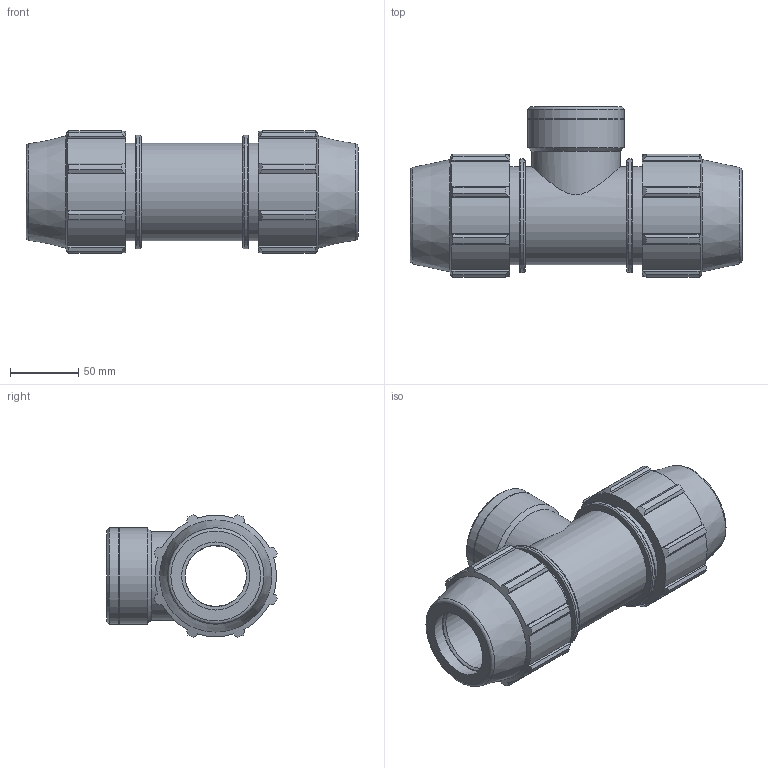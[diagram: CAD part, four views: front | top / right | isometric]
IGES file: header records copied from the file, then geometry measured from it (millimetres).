
Global section: file name: 071400050020_181400050020_0714060500200A.ipt; native system: Autodesk Inventor 2015; preprocessor: unknown; author: KIM; date: 20170606.172158; units: millimetre
Bounding box: 244 x 125.16 x 90.33 mm (x, y, z)
Volume: 833691.7 mm3; surface area: 136700.5 mm2
Topology: 1 solids, 1 shells, 157 faces, 443 edges, 299 vertices
Faces by surface type: plane 79, cylinder 40, cone 23, revolution 15
Full cylindrical faces by diameter (mm): 65.154 x1, 70.82 x2, 72 x3, 83.52 x2
